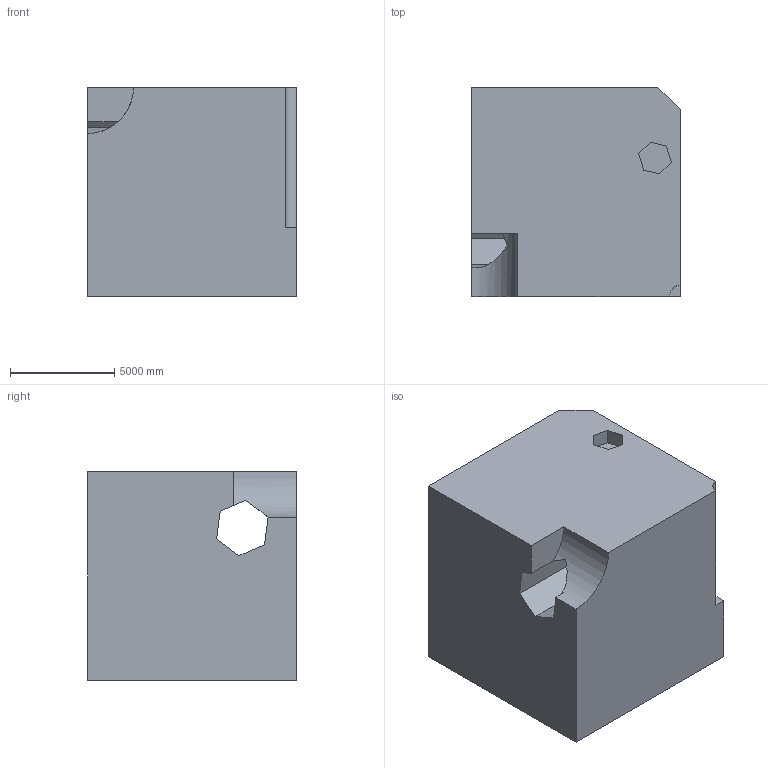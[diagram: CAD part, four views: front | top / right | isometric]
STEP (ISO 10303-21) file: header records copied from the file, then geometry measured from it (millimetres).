
FILE_DESCRIPTION (( 'STEP AP203' ), '1' );
FILE_NAME ('47.STEP', '2022-09-02T13:50:08', ( 'user' ), ( '' ), 'SwSTEP 2.0', 'SolidWorks 2021', '' );
FILE_SCHEMA (( 'CONFIG_CONTROL_DESIGN' ));
Length unit declared in the file: centimetre
Products named in the file (1): 47
Bounding box: 10000 x 10000 x 10000 mm (x, y, z)
Volume: 934618135407.8 mm3; surface area: 657480786.5 mm2
Topology: 1 solids, 1 shells, 24 faces, 66 edges, 44 vertices
Faces by surface type: plane 22, cylinder 2
Entity records: 835 total; most frequent: CARTESIAN_POINT 144, ORIENTED_EDGE 132, DIRECTION 117, EDGE_CURVE 66, VECTOR 59, LINE 59, VERTEX_POINT 44, AXIS2_PLACEMENT_3D 29
